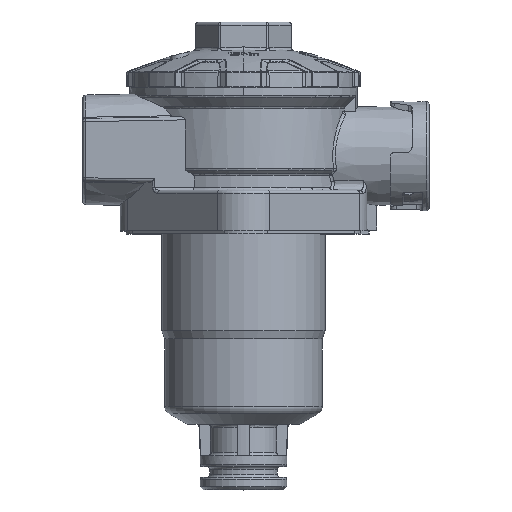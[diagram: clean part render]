
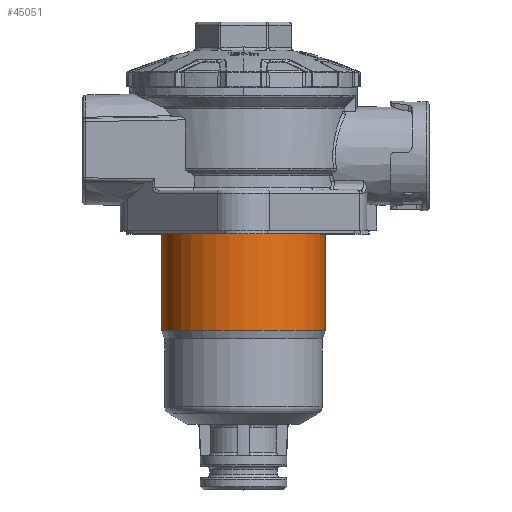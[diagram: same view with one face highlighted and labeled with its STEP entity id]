
A CAD part, top view. The second image highlights one B-rep face of the part: STEP entity #45051.
In plain terms, the highlighted cylindrical face has radius 26.2 mm (diameter 52.4 mm), a partial arc.
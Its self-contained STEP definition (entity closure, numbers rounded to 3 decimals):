
#15827=CARTESIAN_POINT('',(0.,0.88,
0.));
#15828=DIRECTION('',(0.,-1.,0.));
#15829=DIRECTION('',(1.,0.,0.));
#15830=AXIS2_PLACEMENT_3D('',#15827,#15828,#15829);
#15850=DIRECTION('',(0.,-1.,0.));
#15851=VECTOR('',#15850,33.48);
#15852=CARTESIAN_POINT('',(26.2,0.88,0.));
#15853=LINE('',#15852,#15851);
#15857=DIRECTION('',(0.,-1.,0.));
#15858=VECTOR('',#15857,33.48);
#15859=CARTESIAN_POINT('',(-26.2,0.88,0.));
#15860=LINE('',#15859,#15858);
#15864=CARTESIAN_POINT('',(0.,-32.6,0.));
#15865=DIRECTION('',(0.,1.,0.));
#15866=DIRECTION('',(-1.,0.,0.));
#15867=AXIS2_PLACEMENT_3D('',#15864,#15865,#15866);
#26791=CARTESIAN_POINT('',(-26.2,-32.6,0.));
#26792=VERTEX_POINT('',#26791);
#26793=CARTESIAN_POINT('',(26.2,-32.6,0.));
#26794=VERTEX_POINT('',#26793);
#26795=CARTESIAN_POINT('',(-26.2,0.88,0.));
#26796=VERTEX_POINT('',#26795);
#26797=CARTESIAN_POINT('',(26.2,0.88,0.));
#26798=VERTEX_POINT('',#26797);
#45039=CARTESIAN_POINT('',(0.,-15.86,
0.));
#45040=DIRECTION('',(0.,-1.,0.));
#45041=DIRECTION('',(-1.,0.,0.));
#45042=AXIS2_PLACEMENT_3D('',#45039,#45040,#45041);
#45043=CYLINDRICAL_SURFACE('',#45042,26.2);
#45044=ORIENTED_EDGE('',*,*,#45004,.F.);
#45045=ORIENTED_EDGE('',*,*,#45034,.T.);
#45047=ORIENTED_EDGE('',*,*,#45046,.F.);
#45048=ORIENTED_EDGE('',*,*,#45030,.F.);
#45049=EDGE_LOOP('',(#45044,#45045,#45047,#45048));
#45050=FACE_OUTER_BOUND('',#45049,.F.);
#15831=CIRCLE('',#15830,26.2);
#15868=CIRCLE('',#15867,26.2);
#45004=EDGE_CURVE('',#26798,#26796,#15831,.T.);
#45030=EDGE_CURVE('',#26796,#26792,#15860,.T.);
#45034=EDGE_CURVE('',#26798,#26794,#15853,.T.);
#45046=EDGE_CURVE('',#26792,#26794,#15868,.T.);
#45051=ADVANCED_FACE('',(#45050),#45043,.T.);
